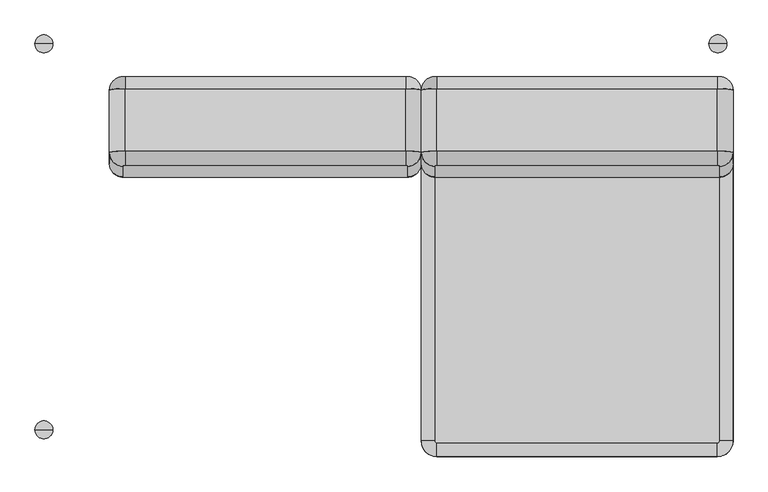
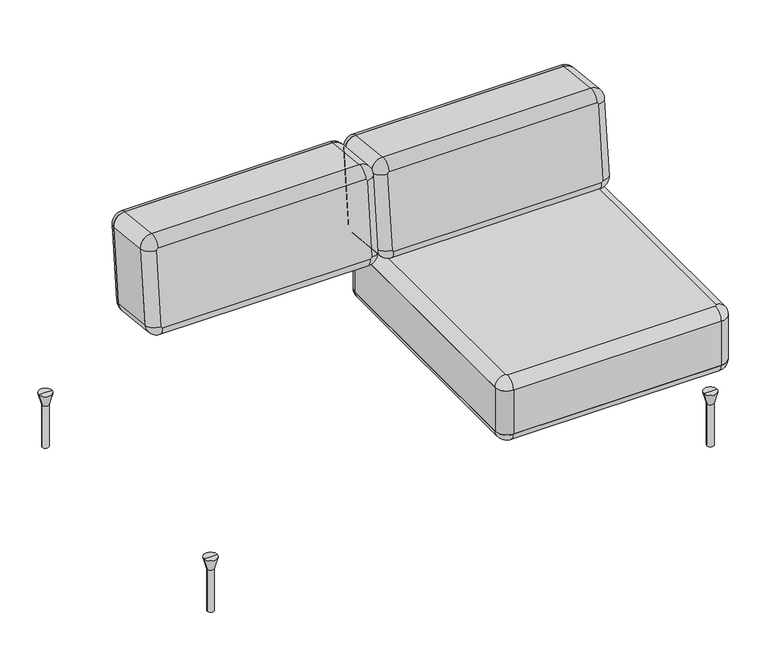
"""IFC4 building model written with IfcOpenShell, lengths in millimetres: furniture geometry, Sofa_Bensen_Neo_NEO25LIT : Sofa_Bensen_Neo_NEO25LIT."""

from ifc_helpers import new_model, si_unit, point, frame, frame_2d, origin, place, context, project, spatial, polyline, circle_curve, ellipse_curve, trimmed, segment, composite_curve, outline, extrude, source, transform, mapped, element, save
from ifc_brep_helpers import plane_surface, cylinder_surface, revolved_surface, advanced_brep


def furniture_ecc5c0b1(model_context):
    return source(origin(), model_context, "Body", "SolidModel", [
        advanced_brep(
        [(661.0275996, 430.0263245, 0.0), (670.8719303, 430.0263245, 0.0), (651.1832689, 430.0263245, 0.0), (641.0551992, 430.0263245, 170.0), (681.0, 430.0263245, 170.0), (661.0275996, 430.0263245, 170.0), (651.1832689, 430.0263245, 133.7982678), (670.8719303, 430.0263245, 133.7982678)],
        [
            (0, 1),
            (1, 2, circle_curve(frame((661.0275996, 430.0263245, 0.0), z_axis=(0.0, 0.0, -1.0), x_axis=(1.0, 0.0, 0.0)), 9.8443307)),
            (2, 0),
            (2, 1, circle_curve(frame((661.0275996, 430.0263245, 0.0), z_axis=(0.0, 0.0, -1.0), x_axis=(1.0, 0.0, 0.0)), 9.8443307)),
            (3, 4, circle_curve(frame((661.0275996, 430.0263245, 170.0), z_axis=(0.0, 0.0, 1.0), x_axis=(1.0, 0.0, 0.0)), 19.9724004)),
            (4, 5),
            (5, 3),
            (4, 3, circle_curve(frame((661.0275996, 430.0263245, 170.0), z_axis=(0.0, 0.0, 1.0), x_axis=(1.0, 0.0, 0.0)), 19.9724004)),
            (6, 7, circle_curve(frame((661.0275996, 430.0263245, 133.7982678), z_axis=(0.0, 0.0, 1.0), x_axis=(1.0, 0.0, 0.0)), 9.8443307)),
            (7, 4),
            (3, 6),
            (7, 6, circle_curve(frame((661.0275996, 430.0263245, 133.7982678), z_axis=(0.0, 0.0, 1.0), x_axis=(1.0, 0.0, 0.0)), 9.8443307)),
            (1, 7),
            (6, 2),
        ],
        [
            plane_surface(frame((661.0275996, 430.0263245, 0.0), z_axis=(0.0, 0.0, -1.0), x_axis=(1.0, 0.0, 0.0))),
            plane_surface(frame((661.0275996, 430.0263245, 170.0), z_axis=(0.0, 0.0, 1.0), x_axis=(1.0, 0.0, 0.0))),
            revolved_surface(polyline([(681.0, 430.0263245, 170.0), (670.8719303, 430.0263245, 133.7982678)]), (661.0275996, 430.0263245, 210.0), (0.0, 0.0, -1.0)),
            cylinder_surface(frame((661.0275996, 430.0263245, 210.0), z_axis=(0.0, 0.0, -1.0), x_axis=(1.0, 0.0, 0.0)), 9.8443307),
        ],
        [
            (0, [[1, 2, 3]]),
            (0, [[-3, 4, -1]]),
            (1, [[5, 6, 7]]),
            (1, [[8, -7, -6]]),
            (2, [[9, 10, -5, 11]]),
            (2, [[12, -11, -8, -10]]),
            (3, [[-2, 13, -9, 14]]),
            (3, [[-4, -14, -12, -13]]),
        ],
    ),
        advanced_brep(
        [(661.0275996, -430.0263245, 0.0), (651.1832689, -430.0263245, 0.0), (670.8719303, -430.0263245, 0.0), (641.0551992, -430.0263245, 170.0), (661.0275996, -430.0263245, 170.0), (681.0, -430.0263245, 170.0), (651.1832689, -430.0263245, 133.7982678), (670.8719303, -430.0263245, 133.7982678)],
        [
            (0, 1),
            (1, 2, circle_curve(frame((661.0275996, -430.0263245, 0.0), z_axis=(0.0, 0.0, -1.0), x_axis=(1.0, 0.0, 0.0)), 9.8443307)),
            (2, 0),
            (2, 1, circle_curve(frame((661.0275996, -430.0263245, 0.0), z_axis=(0.0, 0.0, -1.0), x_axis=(1.0, 0.0, 0.0)), 9.8443307)),
            (3, 4),
            (4, 5),
            (5, 3, circle_curve(frame((661.0275996, -430.0263245, 170.0), z_axis=(0.0, 0.0, 1.0), x_axis=(1.0, 0.0, 0.0)), 19.9724004)),
            (3, 5, circle_curve(frame((661.0275996, -430.0263245, 170.0), z_axis=(0.0, 0.0, 1.0), x_axis=(1.0, 0.0, 0.0)), 19.9724004)),
            (6, 3),
            (5, 7),
            (7, 6, circle_curve(frame((661.0275996, -430.0263245, 133.7982678), z_axis=(0.0, 0.0, 1.0), x_axis=(1.0, 0.0, 0.0)), 9.8443307)),
            (6, 7, circle_curve(frame((661.0275996, -430.0263245, 133.7982678), z_axis=(0.0, 0.0, 1.0), x_axis=(1.0, 0.0, 0.0)), 9.8443307)),
            (1, 6),
            (7, 2),
        ],
        [
            plane_surface(frame((661.0275996, -430.0263245, 0.0), z_axis=(0.0, 0.0, -1.0), x_axis=(1.0, 0.0, 0.0))),
            plane_surface(frame((661.0275996, -430.0263245, 170.0), z_axis=(0.0, 0.0, 1.0), x_axis=(1.0, 0.0, 0.0))),
            revolved_surface(polyline([(681.0, -430.0263245, 170.0), (670.8719303, -430.0263245, 133.7982678)]), (661.0275996, -430.0263245, 210.0), (0.0, 0.0, -1.0)),
            cylinder_surface(frame((661.0275996, -430.0263245, 210.0), z_axis=(0.0, 0.0, -1.0), x_axis=(1.0, 0.0, 0.0)), 9.8443307),
        ],
        [
            (0, [[1, 2, 3]]),
            (0, [[-3, 4, -1]]),
            (1, [[5, 6, 7]]),
            (1, [[-6, -5, 8]]),
            (2, [[9, -7, 10, 11]]),
            (2, [[-10, -8, -9, 12]]),
            (3, [[13, -11, 14, -2]]),
            (3, [[-14, -12, -13, -4]]),
        ],
    ),
        advanced_brep(
        [(-841.0275996, 430.0263245, 0.0), (-831.1832689, 430.0263245, 0.0), (-850.8719302, 430.0263245, 0.0), (-821.0551992, 430.0263245, 170.0), (-841.0275996, 430.0263245, 170.0), (-860.9999999, 430.0263245, 170.0), (-831.1832689, 430.0263245, 133.7982678), (-850.8719302, 430.0263245, 133.7982678)],
        [
            (0, 1),
            (1, 2, circle_curve(frame((-841.0275996, 430.0263245, 0.0), z_axis=(0.0, 0.0, -1.0), x_axis=(-1.0, 0.0, 0.0)), 9.8443307)),
            (2, 0),
            (2, 1, circle_curve(frame((-841.0275996, 430.0263245, 0.0), z_axis=(0.0, 0.0, -1.0), x_axis=(-1.0, 0.0, 0.0)), 9.8443307)),
            (3, 4),
            (4, 5),
            (5, 3, circle_curve(frame((-841.0275996, 430.0263245, 170.0), z_axis=(0.0, 0.0, 1.0), x_axis=(-1.0, 0.0, 0.0)), 19.9724004)),
            (3, 5, circle_curve(frame((-841.0275996, 430.0263245, 170.0), z_axis=(0.0, 0.0, 1.0), x_axis=(-1.0, 0.0, 0.0)), 19.9724004)),
            (6, 3),
            (5, 7),
            (7, 6, circle_curve(frame((-841.0275996, 430.0263245, 133.7982678), z_axis=(0.0, 0.0, 1.0), x_axis=(-1.0, 0.0, 0.0)), 9.8443307)),
            (6, 7, circle_curve(frame((-841.0275996, 430.0263245, 133.7982678), z_axis=(0.0, 0.0, 1.0), x_axis=(-1.0, 0.0, 0.0)), 9.8443307)),
            (1, 6),
            (7, 2),
        ],
        [
            plane_surface(frame((-841.0275996, 430.0263245, 0.0), z_axis=(0.0, 0.0, -1.0), x_axis=(-1.0, 0.0, 0.0))),
            plane_surface(frame((-841.0275996, 430.0263245, 170.0), z_axis=(0.0, 0.0, 1.0), x_axis=(-1.0, 0.0, 0.0))),
            revolved_surface(polyline([(-860.9999999, 430.0263245, 170.0), (-850.8719302, 430.0263245, 133.7982678)]), (-841.0275996, 430.0263245, 210.0), (0.0, 0.0, -1.0)),
            cylinder_surface(frame((-841.0275996, 430.0263245, 210.0), z_axis=(0.0, 0.0, -1.0), x_axis=(-1.0, 0.0, 0.0)), 9.8443307),
        ],
        [
            (0, [[1, 2, 3]]),
            (0, [[-3, 4, -1]]),
            (1, [[5, 6, 7]]),
            (1, [[-6, -5, 8]]),
            (2, [[9, -7, 10, 11]]),
            (2, [[-10, -8, -9, 12]]),
            (3, [[13, -11, 14, -2]]),
            (3, [[-14, -12, -13, -4]]),
        ],
    ),
        advanced_brep(
        [(-841.0275996, -430.0263245, 0.0), (-850.8719302, -430.0263245, 0.0), (-831.1832689, -430.0263245, 0.0), (-821.0551992, -430.0263245, 170.0), (-860.9999999, -430.0263245, 170.0), (-841.0275996, -430.0263245, 170.0), (-831.1832689, -430.0263245, 133.7982678), (-850.8719302, -430.0263245, 133.7982678)],
        [
            (0, 1),
            (1, 2, circle_curve(frame((-841.0275996, -430.0263245, 0.0), z_axis=(0.0, 0.0, -1.0), x_axis=(-1.0, 0.0, 0.0)), 9.8443307)),
            (2, 0),
            (2, 1, circle_curve(frame((-841.0275996, -430.0263245, 0.0), z_axis=(0.0, 0.0, -1.0), x_axis=(-1.0, 0.0, 0.0)), 9.8443307)),
            (3, 4, circle_curve(frame((-841.0275996, -430.0263245, 170.0), z_axis=(0.0, 0.0, 1.0), x_axis=(-1.0, 0.0, 0.0)), 19.9724004)),
            (4, 5),
            (5, 3),
            (4, 3, circle_curve(frame((-841.0275996, -430.0263245, 170.0), z_axis=(0.0, 0.0, 1.0), x_axis=(-1.0, 0.0, 0.0)), 19.9724004)),
            (6, 7, circle_curve(frame((-841.0275996, -430.0263245, 133.7982678), z_axis=(0.0, 0.0, 1.0), x_axis=(-1.0, 0.0, 0.0)), 9.8443307)),
            (7, 4),
            (3, 6),
            (7, 6, circle_curve(frame((-841.0275996, -430.0263245, 133.7982678), z_axis=(0.0, 0.0, 1.0), x_axis=(-1.0, 0.0, 0.0)), 9.8443307)),
            (1, 7),
            (6, 2),
        ],
        [
            plane_surface(frame((-841.0275996, -430.0263245, 0.0), z_axis=(0.0, 0.0, -1.0), x_axis=(-1.0, 0.0, 0.0))),
            plane_surface(frame((-841.0275996, -430.0263245, 170.0), z_axis=(0.0, 0.0, 1.0), x_axis=(-1.0, 0.0, 0.0))),
            revolved_surface(polyline([(-860.9999999, -430.0263245, 170.0), (-850.8719302, -430.0263245, 133.7982678)]), (-841.0275996, -430.0263245, 210.0), (0.0, 0.0, -1.0)),
            cylinder_surface(frame((-841.0275996, -430.0263245, 210.0), z_axis=(0.0, 0.0, -1.0), x_axis=(-1.0, 0.0, 0.0)), 9.8443307),
        ],
        [
            (0, [[1, 2, 3]]),
            (0, [[-3, 4, -1]]),
            (1, [[5, 6, 7]]),
            (1, [[8, -7, -6]]),
            (2, [[9, 10, -5, 11]]),
            (2, [[12, -11, -8, -10]]),
            (3, [[-2, 13, -9, 14]]),
            (3, [[-4, -14, -12, -13]]),
        ],
    ),
        advanced_brep(
        [(35.0, 330.2036921, 743.2087665), (0.0, 326.5451959, 708.4005002), (0.0, 302.5036494, 479.6604642), (35.0, 298.8451531, 444.8521979), (660.0, 298.8451531, 444.8521979), (695.0, 302.5036494, 479.6604642), (695.0, 326.5451959, 708.4005002), (660.0, 330.2036921, 743.2087665), (30.0, 356.3808528, 705.2646463), (35.0, 356.9034951, 710.2372557), (660.0, 356.9034951, 710.2372557), (665.0, 356.3808528, 705.2646463), (665.0, 332.3393062, 476.5246103), (660.0, 331.8166639, 471.5520008), (35.0, 331.8166639, 471.5520008), (30.0, 332.3393062, 476.5246103)],
        [
            (0, 1, circle_curve(frame((35.0, 326.5451959, 708.4005002), z_axis=(0.0, -0.9945218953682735, 0.10452846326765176), x_axis=(-1.0, 0.0, 0.0)), 35.0)),
            (1, 2),
            (2, 3, circle_curve(frame((35.0, 302.5036494, 479.6604642), z_axis=(0.0, -0.9945218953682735, 0.10452846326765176), x_axis=(0.0, -0.10452846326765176, -0.9945218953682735)), 35.0)),
            (3, 4),
            (4, 5, circle_curve(frame((660.0, 302.5036494, 479.6604642), z_axis=(0.0, -0.9945218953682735, 0.10452846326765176), x_axis=(1.0, 0.0, 0.0)), 35.0)),
            (5, 6),
            (6, 7, circle_curve(frame((660.0, 326.5451959, 708.4005002), z_axis=(0.0, -0.9945218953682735, 0.10452846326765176), x_axis=(0.0, 0.10452846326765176, 0.9945218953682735)), 35.0)),
            (7, 0),
            (8, 9, circle_curve(frame((35.0, 356.3808528, 705.2646463), z_axis=(0.0, 0.9945218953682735, -0.10452846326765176), x_axis=(-1.0, 0.0, 0.0)), 5.0)),
            (9, 10),
            (10, 11, circle_curve(frame((660.0, 356.3808528, 705.2646463), z_axis=(0.0, 0.9945218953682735, -0.10452846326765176), x_axis=(0.0, 0.10452846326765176, 0.9945218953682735)), 5.0)),
            (11, 12),
            (12, 13, circle_curve(frame((660.0, 332.3393062, 476.5246103), z_axis=(0.0, 0.9945218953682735, -0.10452846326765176), x_axis=(1.0, 0.0, 0.0)), 5.0)),
            (13, 14),
            (14, 15, circle_curve(frame((35.0, 332.3393062, 476.5246103), z_axis=(0.0, 0.9945218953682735, -0.10452846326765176), x_axis=(0.0, -0.10452846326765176, -0.9945218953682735)), 5.0)),
            (15, 8),
            (8, 1, circle_curve(frame((30.0, 326.5451959, 708.4005002), z_axis=(0.0, 0.10452846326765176, 0.9945218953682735), x_axis=(-1.0, 0.0, 0.0)), 30.0)),
            (0, 9, circle_curve(frame((35.0, 327.0678382, 713.3731096), z_axis=(-1.0, 0.0, 0.0), x_axis=(0.0, 0.10452846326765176, 0.9945218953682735)), 30.0)),
            (7, 10, circle_curve(frame((660.0, 327.0678382, 713.3731096), z_axis=(-1.0, 0.0, 0.0), x_axis=(0.0, 0.10452846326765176, 0.9945218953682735)), 30.0)),
            (6, 11, circle_curve(frame((665.0, 326.5451959, 708.4005002), z_axis=(0.0, 0.10452846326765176, 0.9945218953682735), x_axis=(1.0, 0.0, 0.0)), 30.0)),
            (5, 12, circle_curve(frame((665.0, 302.5036494, 479.6604642), z_axis=(0.0, 0.10452846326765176, 0.9945218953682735), x_axis=(1.0, 0.0, 0.0)), 30.0)),
            (4, 13, circle_curve(frame((660.0, 301.981007, 474.6878547), z_axis=(1.0, 0.0, 0.0), x_axis=(0.0, -0.10452846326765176, -0.9945218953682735)), 30.0)),
            (3, 14, circle_curve(frame((35.0, 301.981007, 474.6878547), z_axis=(1.0, 0.0, 0.0), x_axis=(0.0, -0.10452846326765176, -0.9945218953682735)), 30.0)),
            (2, 15, circle_curve(frame((30.0, 302.5036494, 479.6604642), z_axis=(0.0, -0.10452846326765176, -0.9945218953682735), x_axis=(-1.0, 0.0, 0.0)), 30.0)),
        ],
        [
            plane_surface(frame((35.0, 303.0262917, 484.6330737), z_axis=(0.0, -0.9945218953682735, 0.10452846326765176), x_axis=(-1.0, 0.0, 0.0))),
            plane_surface(frame((35.0, 332.8619485, 481.4972198), z_axis=(0.0, 0.9945218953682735, -0.10452846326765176), x_axis=(1.0, 0.0, 0.0))),
            revolved_surface(trimmed(ellipse_curve(frame((30.0, 326.5451959, 708.4005002), z_axis=(0.0, -0.10452846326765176, -0.9945218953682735), x_axis=(-1.0, 0.0, 0.0)), 30.0, 30.0), [point((0.0, 326.5451959, 708.4005002))], [point((30.0, 356.3808528, 705.2646463))], True, "CARTESIAN"), (35.0, 326.5451959, 708.4005002), (0.0, 0.9945218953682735, -0.10452846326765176)),
            cylinder_surface(frame((35.0, 327.0678382, 713.3731096), z_axis=(-1.0, 0.0, 0.0), x_axis=(0.0, 0.10452846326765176, 0.9945218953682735)), 30.0),
            revolved_surface(trimmed(ellipse_curve(frame((660.0, 327.0678382, 713.3731096), z_axis=(-1.0, 0.0, 0.0), x_axis=(0.0, 0.10452846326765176, 0.9945218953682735)), 30.0, 30.0), [point((660.0, 330.2036921, 743.2087665))], [point((660.0, 356.9034951, 710.2372557))], True, "CARTESIAN"), (660.0, 326.5451959, 708.4005002), (0.0, 0.9945218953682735, -0.10452846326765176)),
            cylinder_surface(frame((665.0, 326.5451959, 708.4005002), z_axis=(0.0, 0.10452846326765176, 0.9945218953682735), x_axis=(1.0, 0.0, 0.0)), 30.0),
            revolved_surface(trimmed(ellipse_curve(frame((665.0, 302.5036494, 479.6604642), z_axis=(0.0, 0.10452846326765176, 0.9945218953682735), x_axis=(1.0, 0.0, 0.0)), 30.0, 30.0), [point((695.0, 302.5036494, 479.6604642))], [point((665.0, 332.3393062, 476.5246103))], True, "CARTESIAN"), (660.0, 302.5036494, 479.6604642), (0.0, 0.9945218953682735, -0.10452846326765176)),
            cylinder_surface(frame((660.0, 301.981007, 474.6878547), z_axis=(1.0, 0.0, 0.0), x_axis=(0.0, -0.10452846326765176, -0.9945218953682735)), 30.0),
            revolved_surface(trimmed(ellipse_curve(frame((35.0, 301.981007, 474.6878547), z_axis=(1.0, 0.0, 0.0), x_axis=(0.0, -0.10452846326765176, -0.9945218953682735)), 30.0, 30.0), [point((35.0, 298.8451531, 444.8521979))], [point((35.0, 331.8166639, 471.5520008))], True, "CARTESIAN"), (35.0, 302.5036494, 479.6604642), (0.0, 0.9945218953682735, -0.10452846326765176)),
            cylinder_surface(frame((30.0, 302.5036494, 479.6604642), z_axis=(0.0, -0.10452846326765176, -0.9945218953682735), x_axis=(-1.0, 0.0, 0.0)), 30.0),
        ],
        [
            (0, [[1, 2, 3, 4, 5, 6, 7, 8]]),
            (1, [[9, 10, 11, 12, 13, 14, 15, 16]]),
            (2, [[17, -1, 18, -9]]),
            (3, [[-18, -8, 19, -10]]),
            (4, [[-19, -7, 20, -11]]),
            (5, [[-20, -6, 21, -12]]),
            (6, [[-21, -5, 22, -13]]),
            (7, [[-22, -4, 23, -14]]),
            (8, [[-23, -3, 24, -15]]),
            (9, [[-17, -16, -24, -2]]),
        ],
    ),
        advanced_brep(
        [(35.0, 190.9706268, 757.8427514), (0.0, 187.3121306, 723.034485), (30.0, 157.4764737, 726.1703389), (35.0, 157.999116, 731.1429484), (660.0, 157.999116, 731.1429484), (660.0, 190.9706268, 757.8427514), (665.0, 157.4764737, 726.1703389), (695.0, 187.3121306, 723.034485), (665.0, 133.4349271, 497.430303), (695.0, 163.270584, 494.2944491), (660.0, 132.9122848, 492.4576935), (660.0, 159.6120878, 459.4861827), (35.0, 132.9122848, 492.4576935), (35.0, 159.6120878, 459.4861827), (30.0, 133.4349271, 497.430303), (0.0, 163.270584, 494.2944491)],
        [
            (0, 1, circle_curve(frame((35.0, 187.3121306, 723.034485), z_axis=(0.0, -0.9945218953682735, 0.10452846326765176), x_axis=(-1.0, 0.0, 0.0)), 35.0)),
            (1, 2, circle_curve(frame((30.0, 187.3121306, 723.034485), z_axis=(0.0, 0.10452846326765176, 0.9945218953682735), x_axis=(-1.0, 0.0, 0.0)), 30.0)),
            (2, 3, circle_curve(frame((35.0, 157.4764737, 726.1703389), z_axis=(0.0, 0.9945218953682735, -0.10452846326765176), x_axis=(-1.0, 0.0, 0.0)), 5.0)),
            (3, 0, circle_curve(frame((35.0, 187.8347729, 728.0070945), z_axis=(-1.0, 0.0, 0.0), x_axis=(0.0, 0.10452846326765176, 0.9945218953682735)), 30.0)),
            (3, 4),
            (4, 5, circle_curve(frame((660.0, 187.8347729, 728.0070945), z_axis=(-1.0, 0.0, 0.0), x_axis=(0.0, 0.10452846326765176, 0.9945218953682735)), 30.0)),
            (5, 0),
            (4, 6, circle_curve(frame((660.0, 157.4764737, 726.1703389), z_axis=(0.0, 0.9945218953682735, -0.10452846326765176), x_axis=(0.0, 0.10452846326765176, 0.9945218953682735)), 5.0)),
            (6, 7, circle_curve(frame((665.0, 187.3121306, 723.034485), z_axis=(0.0, 0.10452846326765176, 0.9945218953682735), x_axis=(1.0, 0.0, 0.0)), 30.0)),
            (7, 5, circle_curve(frame((660.0, 187.3121306, 723.034485), z_axis=(0.0, -0.9945218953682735, 0.10452846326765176), x_axis=(0.0, 0.10452846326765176, 0.9945218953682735)), 35.0)),
            (6, 8),
            (8, 9, circle_curve(frame((665.0, 163.270584, 494.2944491), z_axis=(0.0, 0.10452846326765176, 0.9945218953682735), x_axis=(1.0, 0.0, 0.0)), 30.0)),
            (9, 7),
            (8, 10, circle_curve(frame((660.0, 133.4349271, 497.430303), z_axis=(0.0, 0.9945218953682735, -0.10452846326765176), x_axis=(1.0, 0.0, 0.0)), 5.0)),
            (10, 11, circle_curve(frame((660.0, 162.7479417, 489.3218396), z_axis=(1.0, 0.0, 0.0), x_axis=(0.0, -0.10452846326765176, -0.9945218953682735)), 30.0)),
            (11, 9, circle_curve(frame((660.0, 163.270584, 494.2944491), z_axis=(0.0, -0.9945218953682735, 0.10452846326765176), x_axis=(1.0, 0.0, 0.0)), 35.0)),
            (10, 12),
            (12, 13, circle_curve(frame((35.0, 162.7479417, 489.3218396), z_axis=(1.0, 0.0, 0.0), x_axis=(0.0, -0.10452846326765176, -0.9945218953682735)), 30.0)),
            (13, 11),
            (12, 14, circle_curve(frame((35.0, 133.4349271, 497.430303), z_axis=(0.0, 0.9945218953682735, -0.10452846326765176), x_axis=(0.0, -0.10452846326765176, -0.9945218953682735)), 5.0)),
            (14, 15, circle_curve(frame((30.0, 163.270584, 494.2944491), z_axis=(0.0, -0.10452846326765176, -0.9945218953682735), x_axis=(-1.0, 0.0, 0.0)), 30.0)),
            (15, 13, circle_curve(frame((35.0, 163.270584, 494.2944491), z_axis=(0.0, -0.9945218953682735, 0.10452846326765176), x_axis=(0.0, -0.10452846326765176, -0.9945218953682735)), 35.0)),
            (1, 15),
            (14, 2),
        ],
        [
            revolved_surface(trimmed(ellipse_curve(frame((30.0, 187.3121306, 723.034485), z_axis=(0.0, -0.10452846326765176, -0.9945218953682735), x_axis=(-1.0, 0.0, 0.0)), 30.0, 30.0), [point((30.0, 157.4764737, 726.1703389))], [point((0.0, 187.3121306, 723.034485))], True, "CARTESIAN"), (35.0, 356.3808528, 705.2646463), (0.0, 0.9945218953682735, -0.10452846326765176)),
            cylinder_surface(frame((35.0, 187.8347729, 728.0070945), z_axis=(-1.0, 0.0, 0.0), x_axis=(0.0, 0.10452846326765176, 0.9945218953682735)), 30.0),
            revolved_surface(trimmed(ellipse_curve(frame((660.0, 187.8347729, 728.0070945), z_axis=(-1.0, 0.0, 0.0), x_axis=(0.0, 0.10452846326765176, 0.9945218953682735)), 30.0, 30.0), [point((660.0, 157.999116, 731.1429484))], [point((660.0, 190.9706268, 757.8427514))], True, "CARTESIAN"), (660.0, 356.3808528, 705.2646463), (0.0, 0.9945218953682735, -0.10452846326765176)),
            cylinder_surface(frame((665.0, 187.3121306, 723.034485), z_axis=(0.0, 0.10452846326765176, 0.9945218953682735), x_axis=(1.0, 0.0, 0.0)), 30.0),
            revolved_surface(trimmed(ellipse_curve(frame((665.0, 163.270584, 494.2944491), z_axis=(0.0, 0.10452846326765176, 0.9945218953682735), x_axis=(1.0, 0.0, 0.0)), 30.0, 30.0), [point((665.0, 133.4349271, 497.430303))], [point((695.0, 163.270584, 494.2944491))], True, "CARTESIAN"), (660.0, 332.3393062, 476.5246103), (0.0, 0.9945218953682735, -0.10452846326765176)),
            cylinder_surface(frame((660.0, 162.7479417, 489.3218396), z_axis=(1.0, 0.0, 0.0), x_axis=(0.0, -0.10452846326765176, -0.9945218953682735)), 30.0),
            revolved_surface(trimmed(ellipse_curve(frame((35.0, 162.7479417, 489.3218396), z_axis=(1.0, 0.0, 0.0), x_axis=(0.0, -0.10452846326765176, -0.9945218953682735)), 30.0, 30.0), [point((35.0, 132.9122848, 492.4576935))], [point((35.0, 159.6120878, 459.4861827))], True, "CARTESIAN"), (35.0, 332.3393062, 476.5246103), (0.0, 0.9945218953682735, -0.10452846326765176)),
            cylinder_surface(frame((30.0, 163.270584, 494.2944491), z_axis=(0.0, -0.10452846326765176, -0.9945218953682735), x_axis=(-1.0, 0.0, 0.0)), 30.0),
            plane_surface(frame((0.0, 163.270584, 494.2944491), z_axis=(0.0, 0.9945218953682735, -0.10452846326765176), x_axis=(0.0, 0.10452846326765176, 0.9945218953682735))),
            plane_surface(frame((35.0, 133.9575695, 502.4029125), z_axis=(0.0, -0.9945218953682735, 0.10452846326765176), x_axis=(-1.0, 0.0, 0.0))),
        ],
        [
            (0, [[1, 2, 3, 4]]),
            (1, [[-4, 5, 6, 7]]),
            (2, [[-6, 8, 9, 10]]),
            (3, [[-9, 11, 12, 13]]),
            (4, [[-12, 14, 15, 16]]),
            (5, [[-15, 17, 18, 19]]),
            (6, [[-18, 20, 21, 22]]),
            (7, [[-2, 23, -21, 24]]),
            (8, [[-1, -7, -10, -13, -16, -19, -22, -23]]),
            (9, [[-3, -24, -20, -17, -14, -11, -8, -5]]),
        ],
    ),
        extrude(outline(composite_curve([segment(polyline([(-35.0, -35.0000001), (-35.0, 195.0)]), True, "CONTINUOUS"), segment(trimmed(circle_curve(frame_2d((0.0, 195.0)), 35.0), [point((-35.0, 195.0))], [point((0.0, 230.0))], False, "CARTESIAN"), True, "CONTINUOUS"), segment(polyline([(0.0, 230.0), (625.0, 230.0)]), True, "CONTINUOUS"), segment(trimmed(circle_curve(frame_2d((625.0, 195.0)), 35.0), [point((625.0, 230.0))], [point((660.0, 195.0))], False, "CARTESIAN"), True, "CONTINUOUS"), segment(polyline([(660.0, 195.0), (660.0, -35.0000001)]), True, "CONTINUOUS"), segment(trimmed(circle_curve(frame_2d((625.0, -35.0000001)), 35.0), [point((660.0, -35.0000001))], [point((625.0, -70.0))], False, "CARTESIAN"), True, "CONTINUOUS"), segment(polyline([(625.0, -70.0), (0.0, -70.0)]), True, "CONTINUOUS"), segment(trimmed(circle_curve(frame_2d((0.0, -35.0000001)), 35.0), [point((0.0, -70.0))], [point((-35.0, -35.0000001))], False, "CARTESIAN"), True, "CONTINUOUS")], self_intersect=False)), frame((35.0, 306.1621456, 514.4687306), z_axis=(0.0, -0.9945218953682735, 0.10452846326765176), x_axis=(1.0, 0.0, 0.0)), (0.0, 0.0, 1.0), 140.0),
        advanced_brep(
        [(-660.0, 330.2036921, 743.2087665), (-695.0, 326.5451959, 708.4005002), (-695.0, 302.5036494, 479.6604642), (-660.0, 298.8451531, 444.8521979), (-35.0, 298.8451531, 444.8521979), (0.0, 302.5036494, 479.6604642), (0.0, 326.5451959, 708.4005002), (-35.0, 330.2036921, 743.2087665), (-665.0, 356.3808528, 705.2646463), (-660.0, 356.9034951, 710.2372557), (-35.0, 356.9034951, 710.2372557), (-30.0, 356.3808528, 705.2646463), (-30.0, 332.3393062, 476.5246103), (-35.0, 331.8166639, 471.5520008), (-660.0, 331.8166639, 471.5520008), (-665.0, 332.3393062, 476.5246103)],
        [
            (0, 1, circle_curve(frame((-660.0, 326.5451959, 708.4005002), z_axis=(0.0, -0.9945218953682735, 0.10452846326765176), x_axis=(-1.0, 0.0, 0.0)), 35.0)),
            (1, 2),
            (2, 3, circle_curve(frame((-660.0, 302.5036494, 479.6604642), z_axis=(0.0, -0.9945218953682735, 0.10452846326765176), x_axis=(0.0, -0.10452846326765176, -0.9945218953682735)), 35.0)),
            (3, 4),
            (4, 5, circle_curve(frame((-35.0, 302.5036494, 479.6604642), z_axis=(0.0, -0.9945218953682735, 0.10452846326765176), x_axis=(1.0, 0.0, 0.0)), 35.0)),
            (5, 6),
            (6, 7, circle_curve(frame((-35.0, 326.5451959, 708.4005002), z_axis=(0.0, -0.9945218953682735, 0.10452846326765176), x_axis=(0.0, 0.10452846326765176, 0.9945218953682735)), 35.0)),
            (7, 0),
            (8, 9, circle_curve(frame((-660.0, 356.3808528, 705.2646463), z_axis=(0.0, 0.9945218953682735, -0.10452846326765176), x_axis=(-1.0, 0.0, 0.0)), 5.0)),
            (9, 10),
            (10, 11, circle_curve(frame((-35.0, 356.3808528, 705.2646463), z_axis=(0.0, 0.9945218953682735, -0.10452846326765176), x_axis=(0.0, 0.10452846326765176, 0.9945218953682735)), 5.0)),
            (11, 12),
            (12, 13, circle_curve(frame((-35.0, 332.3393062, 476.5246103), z_axis=(0.0, 0.9945218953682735, -0.10452846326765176), x_axis=(1.0, 0.0, 0.0)), 5.0)),
            (13, 14),
            (14, 15, circle_curve(frame((-660.0, 332.3393062, 476.5246103), z_axis=(0.0, 0.9945218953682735, -0.10452846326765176), x_axis=(0.0, -0.10452846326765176, -0.9945218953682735)), 5.0)),
            (15, 8),
            (8, 1, circle_curve(frame((-665.0, 326.5451959, 708.4005002), z_axis=(0.0, 0.10452846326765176, 0.9945218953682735), x_axis=(-1.0, 0.0, 0.0)), 30.0)),
            (0, 9, circle_curve(frame((-660.0, 327.0678382, 713.3731096), z_axis=(-1.0, 0.0, 0.0), x_axis=(0.0, 0.10452846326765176, 0.9945218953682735)), 30.0)),
            (7, 10, circle_curve(frame((-35.0, 327.0678382, 713.3731096), z_axis=(-1.0, 0.0, 0.0), x_axis=(0.0, 0.10452846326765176, 0.9945218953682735)), 30.0)),
            (6, 11, circle_curve(frame((-30.0, 326.5451959, 708.4005002), z_axis=(0.0, 0.10452846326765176, 0.9945218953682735), x_axis=(1.0, 0.0, 0.0)), 30.0)),
            (5, 12, circle_curve(frame((-30.0, 302.5036494, 479.6604642), z_axis=(0.0, 0.10452846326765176, 0.9945218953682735), x_axis=(1.0, 0.0, 0.0)), 30.0)),
            (4, 13, circle_curve(frame((-35.0, 301.981007, 474.6878547), z_axis=(1.0, 0.0, 0.0), x_axis=(0.0, -0.10452846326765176, -0.9945218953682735)), 30.0)),
            (3, 14, circle_curve(frame((-660.0, 301.981007, 474.6878547), z_axis=(1.0, 0.0, 0.0), x_axis=(0.0, -0.10452846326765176, -0.9945218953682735)), 30.0)),
            (2, 15, circle_curve(frame((-665.0, 302.5036494, 479.6604642), z_axis=(0.0, -0.10452846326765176, -0.9945218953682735), x_axis=(-1.0, 0.0, 0.0)), 30.0)),
        ],
        [
            plane_surface(frame((-660.0, 303.0262917, 484.6330737), z_axis=(0.0, -0.9945218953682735, 0.10452846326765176), x_axis=(-1.0, 0.0, 0.0))),
            plane_surface(frame((-660.0, 332.8619485, 481.4972198), z_axis=(0.0, 0.9945218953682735, -0.10452846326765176), x_axis=(1.0, 0.0, 0.0))),
            revolved_surface(trimmed(ellipse_curve(frame((-665.0, 326.5451959, 708.4005002), z_axis=(0.0, -0.10452846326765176, -0.9945218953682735), x_axis=(-1.0, 0.0, 0.0)), 30.0, 30.0), [point((-695.0, 326.5451959, 708.4005002))], [point((-665.0, 356.3808528, 705.2646463))], True, "CARTESIAN"), (-660.0, 326.5451959, 708.4005002), (0.0, 0.9945218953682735, -0.10452846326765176)),
            cylinder_surface(frame((-660.0, 327.0678382, 713.3731096), z_axis=(-1.0, 0.0, 0.0), x_axis=(0.0, 0.10452846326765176, 0.9945218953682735)), 30.0),
            revolved_surface(trimmed(ellipse_curve(frame((-35.0, 327.0678382, 713.3731096), z_axis=(-1.0, 0.0, 0.0), x_axis=(0.0, 0.10452846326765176, 0.9945218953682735)), 30.0, 30.0), [point((-35.0, 330.2036921, 743.2087665))], [point((-35.0, 356.9034951, 710.2372557))], True, "CARTESIAN"), (-35.0, 326.5451959, 708.4005002), (0.0, 0.9945218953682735, -0.10452846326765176)),
            cylinder_surface(frame((-30.0, 326.5451959, 708.4005002), z_axis=(0.0, 0.10452846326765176, 0.9945218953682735), x_axis=(1.0, 0.0, 0.0)), 30.0),
            revolved_surface(trimmed(ellipse_curve(frame((-30.0, 302.5036494, 479.6604642), z_axis=(0.0, 0.10452846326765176, 0.9945218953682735), x_axis=(1.0, 0.0, 0.0)), 30.0, 30.0), [point((0.0, 302.5036494, 479.6604642))], [point((-30.0, 332.3393062, 476.5246103))], True, "CARTESIAN"), (-35.0, 302.5036494, 479.6604642), (0.0, 0.9945218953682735, -0.10452846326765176)),
            cylinder_surface(frame((-35.0, 301.981007, 474.6878547), z_axis=(1.0, 0.0, 0.0), x_axis=(0.0, -0.10452846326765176, -0.9945218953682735)), 30.0),
            revolved_surface(trimmed(ellipse_curve(frame((-660.0, 301.981007, 474.6878547), z_axis=(1.0, 0.0, 0.0), x_axis=(0.0, -0.10452846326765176, -0.9945218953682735)), 30.0, 30.0), [point((-660.0, 298.8451531, 444.8521979))], [point((-660.0, 331.8166639, 471.5520008))], True, "CARTESIAN"), (-660.0, 302.5036494, 479.6604642), (0.0, 0.9945218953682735, -0.10452846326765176)),
            cylinder_surface(frame((-665.0, 302.5036494, 479.6604642), z_axis=(0.0, -0.10452846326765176, -0.9945218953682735), x_axis=(-1.0, 0.0, 0.0)), 30.0),
        ],
        [
            (0, [[1, 2, 3, 4, 5, 6, 7, 8]]),
            (1, [[9, 10, 11, 12, 13, 14, 15, 16]]),
            (2, [[17, -1, 18, -9]]),
            (3, [[-18, -8, 19, -10]]),
            (4, [[-19, -7, 20, -11]]),
            (5, [[-20, -6, 21, -12]]),
            (6, [[-21, -5, 22, -13]]),
            (7, [[-22, -4, 23, -14]]),
            (8, [[-23, -3, 24, -15]]),
            (9, [[-17, -16, -24, -2]]),
        ],
    ),
        advanced_brep(
        [(-660.0, 190.9706268, 757.8427514), (-695.0, 187.3121306, 723.034485), (-665.0, 157.4764737, 726.1703389), (-660.0, 157.999116, 731.1429484), (-35.0, 157.999116, 731.1429484), (-35.0, 190.9706268, 757.8427514), (-30.0, 157.4764737, 726.1703389), (0.0, 187.3121306, 723.034485), (-30.0, 133.4349271, 497.430303), (0.0, 163.270584, 494.2944491), (-35.0, 132.9122848, 492.4576935), (-35.0, 159.6120878, 459.4861827), (-660.0, 132.9122848, 492.4576935), (-660.0, 159.6120878, 459.4861827), (-665.0, 133.4349271, 497.430303), (-695.0, 163.270584, 494.2944491)],
        [
            (0, 1, circle_curve(frame((-660.0, 187.3121306, 723.034485), z_axis=(0.0, -0.9945218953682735, 0.10452846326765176), x_axis=(-1.0, 0.0, 0.0)), 35.0)),
            (1, 2, circle_curve(frame((-665.0, 187.3121306, 723.034485), z_axis=(0.0, 0.10452846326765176, 0.9945218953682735), x_axis=(-1.0, 0.0, 0.0)), 30.0)),
            (2, 3, circle_curve(frame((-660.0, 157.4764737, 726.1703389), z_axis=(0.0, 0.9945218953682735, -0.10452846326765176), x_axis=(-1.0, 0.0, 0.0)), 5.0)),
            (3, 0, circle_curve(frame((-660.0, 187.8347729, 728.0070945), z_axis=(-1.0, 0.0, 0.0), x_axis=(0.0, 0.10452846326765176, 0.9945218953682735)), 30.0)),
            (3, 4),
            (4, 5, circle_curve(frame((-35.0, 187.8347729, 728.0070945), z_axis=(-1.0, 0.0, 0.0), x_axis=(0.0, 0.10452846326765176, 0.9945218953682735)), 30.0)),
            (5, 0),
            (4, 6, circle_curve(frame((-35.0, 157.4764737, 726.1703389), z_axis=(0.0, 0.9945218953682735, -0.10452846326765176), x_axis=(0.0, 0.10452846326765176, 0.9945218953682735)), 5.0)),
            (6, 7, circle_curve(frame((-30.0, 187.3121306, 723.034485), z_axis=(0.0, 0.10452846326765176, 0.9945218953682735), x_axis=(1.0, 0.0, 0.0)), 30.0)),
            (7, 5, circle_curve(frame((-35.0, 187.3121306, 723.034485), z_axis=(0.0, -0.9945218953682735, 0.10452846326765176), x_axis=(0.0, 0.10452846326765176, 0.9945218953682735)), 35.0)),
            (6, 8),
            (8, 9, circle_curve(frame((-30.0, 163.270584, 494.2944491), z_axis=(0.0, 0.10452846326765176, 0.9945218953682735), x_axis=(1.0, 0.0, 0.0)), 30.0)),
            (9, 7),
            (8, 10, circle_curve(frame((-35.0, 133.4349271, 497.430303), z_axis=(0.0, 0.9945218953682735, -0.10452846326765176), x_axis=(1.0, 0.0, 0.0)), 5.0)),
            (10, 11, circle_curve(frame((-35.0, 162.7479417, 489.3218396), z_axis=(1.0, 0.0, 0.0), x_axis=(0.0, -0.10452846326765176, -0.9945218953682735)), 30.0)),
            (11, 9, circle_curve(frame((-35.0, 163.270584, 494.2944491), z_axis=(0.0, -0.9945218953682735, 0.10452846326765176), x_axis=(1.0, 0.0, 0.0)), 35.0)),
            (10, 12),
            (12, 13, circle_curve(frame((-660.0, 162.7479417, 489.3218396), z_axis=(1.0, 0.0, 0.0), x_axis=(0.0, -0.10452846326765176, -0.9945218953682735)), 30.0)),
            (13, 11),
            (12, 14, circle_curve(frame((-660.0, 133.4349271, 497.430303), z_axis=(0.0, 0.9945218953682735, -0.10452846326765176), x_axis=(0.0, -0.10452846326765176, -0.9945218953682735)), 5.0)),
            (14, 15, circle_curve(frame((-665.0, 163.270584, 494.2944491), z_axis=(0.0, -0.10452846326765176, -0.9945218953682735), x_axis=(-1.0, 0.0, 0.0)), 30.0)),
            (15, 13, circle_curve(frame((-660.0, 163.270584, 494.2944491), z_axis=(0.0, -0.9945218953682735, 0.10452846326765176), x_axis=(0.0, -0.10452846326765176, -0.9945218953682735)), 35.0)),
            (1, 15),
            (14, 2),
        ],
        [
            revolved_surface(trimmed(ellipse_curve(frame((-665.0, 187.3121306, 723.034485), z_axis=(0.0, -0.10452846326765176, -0.9945218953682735), x_axis=(-1.0, 0.0, 0.0)), 30.0, 30.0), [point((-665.0, 157.4764737, 726.1703389))], [point((-695.0, 187.3121306, 723.034485))], True, "CARTESIAN"), (-660.0, 356.3808528, 705.2646463), (0.0, 0.9945218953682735, -0.10452846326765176)),
            cylinder_surface(frame((-660.0, 187.8347729, 728.0070945), z_axis=(-1.0, 0.0, 0.0), x_axis=(0.0, 0.10452846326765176, 0.9945218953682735)), 30.0),
            revolved_surface(trimmed(ellipse_curve(frame((-35.0, 187.8347729, 728.0070945), z_axis=(-1.0, 0.0, 0.0), x_axis=(0.0, 0.10452846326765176, 0.9945218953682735)), 30.0, 30.0), [point((-35.0, 157.999116, 731.1429484))], [point((-35.0, 190.9706268, 757.8427514))], True, "CARTESIAN"), (-35.0, 356.3808528, 705.2646463), (0.0, 0.9945218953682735, -0.10452846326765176)),
            cylinder_surface(frame((-30.0, 187.3121306, 723.034485), z_axis=(0.0, 0.10452846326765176, 0.9945218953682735), x_axis=(1.0, 0.0, 0.0)), 30.0),
            revolved_surface(trimmed(ellipse_curve(frame((-30.0, 163.270584, 494.2944491), z_axis=(0.0, 0.10452846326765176, 0.9945218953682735), x_axis=(1.0, 0.0, 0.0)), 30.0, 30.0), [point((-30.0, 133.4349271, 497.430303))], [point((0.0, 163.270584, 494.2944491))], True, "CARTESIAN"), (-35.0, 332.3393062, 476.5246103), (0.0, 0.9945218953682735, -0.10452846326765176)),
            cylinder_surface(frame((-35.0, 162.7479417, 489.3218396), z_axis=(1.0, 0.0, 0.0), x_axis=(0.0, -0.10452846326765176, -0.9945218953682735)), 30.0),
            revolved_surface(trimmed(ellipse_curve(frame((-660.0, 162.7479417, 489.3218396), z_axis=(1.0, 0.0, 0.0), x_axis=(0.0, -0.10452846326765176, -0.9945218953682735)), 30.0, 30.0), [point((-660.0, 132.9122848, 492.4576935))], [point((-660.0, 159.6120878, 459.4861827))], True, "CARTESIAN"), (-660.0, 332.3393062, 476.5246103), (0.0, 0.9945218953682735, -0.10452846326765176)),
            cylinder_surface(frame((-665.0, 163.270584, 494.2944491), z_axis=(0.0, -0.10452846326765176, -0.9945218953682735), x_axis=(-1.0, 0.0, 0.0)), 30.0),
            plane_surface(frame((-695.0, 163.270584, 494.2944491), z_axis=(0.0, 0.9945218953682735, -0.10452846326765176), x_axis=(0.0, 0.10452846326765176, 0.9945218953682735))),
            plane_surface(frame((-660.0, 133.9575695, 502.4029125), z_axis=(0.0, -0.9945218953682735, 0.10452846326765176), x_axis=(-1.0, 0.0, 0.0))),
        ],
        [
            (0, [[1, 2, 3, 4]]),
            (1, [[-4, 5, 6, 7]]),
            (2, [[-6, 8, 9, 10]]),
            (3, [[-9, 11, 12, 13]]),
            (4, [[-12, 14, 15, 16]]),
            (5, [[-15, 17, 18, 19]]),
            (6, [[-18, 20, 21, 22]]),
            (7, [[-2, 23, -21, 24]]),
            (8, [[-1, -7, -10, -13, -16, -19, -22, -23]]),
            (9, [[-3, -24, -20, -17, -14, -11, -8, -5]]),
        ],
    ),
        extrude(outline(composite_curve([segment(polyline([(-35.0, -35.0000001), (-35.0, 195.0)]), True, "CONTINUOUS"), segment(trimmed(circle_curve(frame_2d((0.0, 195.0)), 35.0), [point((-35.0, 195.0))], [point((0.0, 230.0))], False, "CARTESIAN"), True, "CONTINUOUS"), segment(polyline([(0.0, 230.0), (625.0, 230.0)]), True, "CONTINUOUS"), segment(trimmed(circle_curve(frame_2d((625.0, 195.0)), 35.0), [point((625.0, 230.0))], [point((660.0, 195.0))], False, "CARTESIAN"), True, "CONTINUOUS"), segment(polyline([(660.0, 195.0), (660.0, -35.0000001)]), True, "CONTINUOUS"), segment(trimmed(circle_curve(frame_2d((625.0, -35.0000001)), 35.0), [point((660.0, -35.0000001))], [point((625.0, -70.0))], False, "CARTESIAN"), True, "CONTINUOUS"), segment(polyline([(625.0, -70.0), (0.0, -70.0)]), True, "CONTINUOUS"), segment(trimmed(circle_curve(frame_2d((0.0, -35.0000001)), 35.0), [point((0.0, -70.0))], [point((-35.0, -35.0000001))], False, "CARTESIAN"), True, "CONTINUOUS")], self_intersect=False)), frame((-660.0, 306.1621456, 514.4687306), z_axis=(0.0, -0.9945218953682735, 0.10452846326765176), x_axis=(1.0, 0.0, 0.0)), (0.0, 0.0, 1.0), 140.0),
        advanced_brep(
        [(660.0, -490.001275, 289.4004127), (695.0, -455.001275, 289.4004127), (695.0, 274.998725, 289.4004127), (660.0, 309.998725, 289.4004127), (35.0, 309.998725, 289.4004127), (0.0, 274.998725, 289.4004127), (0.0, -455.001275, 289.4004127), (35.0, -490.001275, 289.4004127), (665.0, -455.001275, 259.4004127), (660.0, -460.001275, 259.4004127), (35.0, -460.001275, 259.4004127), (30.0, -455.001275, 259.4004127), (30.0, 274.998725, 259.4004127), (35.0, 279.998725, 259.4004127), (660.0, 279.998725, 259.4004127), (665.0, 274.998725, 259.4004127)],
        [
            (0, 1, circle_curve(frame((660.0, -455.001275, 289.4004127), z_axis=(0.0, 0.0, 1.0), x_axis=(1.0, 0.0, 0.0)), 35.0)),
            (1, 2),
            (2, 3, circle_curve(frame((660.0, 274.998725, 289.4004127), z_axis=(0.0, 0.0, 1.0), x_axis=(0.0, 1.0, 0.0)), 35.0)),
            (3, 4),
            (4, 5, circle_curve(frame((35.0, 274.998725, 289.4004127), z_axis=(0.0, 0.0, 1.0), x_axis=(-1.0, 0.0, 0.0)), 35.0)),
            (5, 6),
            (6, 7, circle_curve(frame((35.0, -455.001275, 289.4004127), z_axis=(0.0, 0.0, 1.0), x_axis=(0.0, -1.0, 0.0)), 35.0)),
            (7, 0),
            (8, 9, circle_curve(frame((660.0, -455.001275, 259.4004127), z_axis=(0.0, 0.0, -1.0), x_axis=(1.0, 0.0, 0.0)), 5.0)),
            (9, 10),
            (10, 11, circle_curve(frame((35.0, -455.001275, 259.4004127), z_axis=(0.0, 0.0, -1.0), x_axis=(0.0, -1.0, 0.0)), 5.0)),
            (11, 12),
            (12, 13, circle_curve(frame((35.0, 274.998725, 259.4004127), z_axis=(0.0, 0.0, -1.0), x_axis=(-1.0, 0.0, 0.0)), 5.0)),
            (13, 14),
            (14, 15, circle_curve(frame((660.0, 274.998725, 259.4004127), z_axis=(0.0, 0.0, -1.0), x_axis=(0.0, 1.0, 0.0)), 5.0)),
            (15, 8),
            (8, 1, circle_curve(frame((665.0, -455.001275, 289.4004127), z_axis=(0.0, -1.0, 0.0), x_axis=(1.0, 0.0, 0.0)), 30.0)),
            (0, 9, circle_curve(frame((660.0, -460.001275, 289.4004127), z_axis=(1.0, 0.0, 0.0), x_axis=(0.0, -1.0, 0.0)), 30.0)),
            (7, 10, circle_curve(frame((35.0, -460.001275, 289.4004127), z_axis=(1.0, 0.0, 0.0), x_axis=(0.0, -1.0, 0.0)), 30.0)),
            (6, 11, circle_curve(frame((30.0, -455.001275, 289.4004127), z_axis=(0.0, -1.0, 0.0), x_axis=(-1.0, 0.0, 0.0)), 30.0)),
            (5, 12, circle_curve(frame((30.0, 274.998725, 289.4004127), z_axis=(0.0, -1.0, 0.0), x_axis=(-1.0, 0.0, 0.0)), 30.0)),
            (4, 13, circle_curve(frame((35.0, 279.998725, 289.4004127), z_axis=(-1.0, 0.0, 0.0), x_axis=(0.0, 1.0, 0.0)), 30.0)),
            (3, 14, circle_curve(frame((660.0, 279.998725, 289.4004127), z_axis=(-1.0, 0.0, 0.0), x_axis=(0.0, 1.0, 0.0)), 30.0)),
            (2, 15, circle_curve(frame((665.0, 274.998725, 289.4004127), z_axis=(0.0, 1.0, 0.0), x_axis=(1.0, 0.0, 0.0)), 30.0)),
        ],
        [
            plane_surface(frame((660.0, 269.998725, 289.4004127), z_axis=(0.0, 0.0, 1.0), x_axis=(1.0, 0.0, 0.0))),
            plane_surface(frame((660.0, 269.998725, 259.4004127), z_axis=(0.0, 0.0, -1.0), x_axis=(-1.0, 0.0, 0.0))),
            revolved_surface(trimmed(ellipse_curve(frame((665.0, -455.001275, 289.4004127), z_axis=(0.0, 1.0, 0.0), x_axis=(1.0, 0.0, 0.0)), 30.0, 30.0), [point((695.0, -455.001275, 289.4004127))], [point((665.0, -455.001275, 259.4004127))], True, "CARTESIAN"), (660.0, -455.001275, 289.4004127), (0.0, 0.0, -1.0)),
            cylinder_surface(frame((660.0, -460.001275, 289.4004127), z_axis=(1.0, 0.0, 0.0), x_axis=(0.0, -1.0, 0.0)), 30.0),
            revolved_surface(trimmed(ellipse_curve(frame((35.0, -460.001275, 289.4004127), z_axis=(1.0, 0.0, 0.0), x_axis=(0.0, -1.0, 0.0)), 30.0, 30.0), [point((35.0, -490.001275, 289.4004127))], [point((35.0, -460.001275, 259.4004127))], True, "CARTESIAN"), (35.0, -455.001275, 289.4004127), (0.0, 0.0, -1.0)),
            cylinder_surface(frame((30.0, -455.001275, 289.4004127), z_axis=(0.0, -1.0, 0.0), x_axis=(-1.0, 0.0, 0.0)), 30.0),
            revolved_surface(trimmed(ellipse_curve(frame((30.0, 274.998725, 289.4004127), z_axis=(0.0, -1.0, 0.0), x_axis=(-1.0, 0.0, 0.0)), 30.0, 30.0), [point((0.0, 274.998725, 289.4004127))], [point((30.0, 274.998725, 259.4004127))], True, "CARTESIAN"), (35.0, 274.998725, 289.4004127), (0.0, 0.0, -1.0)),
            cylinder_surface(frame((35.0, 279.998725, 289.4004127), z_axis=(-1.0, 0.0, 0.0), x_axis=(0.0, 1.0, 0.0)), 30.0),
            revolved_surface(trimmed(ellipse_curve(frame((660.0, 279.998725, 289.4004127), z_axis=(-1.0, 0.0, 0.0), x_axis=(0.0, 1.0, 0.0)), 30.0, 30.0), [point((660.0, 309.998725, 289.4004127))], [point((660.0, 279.998725, 259.4004127))], True, "CARTESIAN"), (660.0, 274.998725, 289.4004127), (0.0, 0.0, -1.0)),
            cylinder_surface(frame((665.0, 274.998725, 289.4004127), z_axis=(0.0, 1.0, 0.0), x_axis=(1.0, 0.0, 0.0)), 30.0),
        ],
        [
            (0, [[1, 2, 3, 4, 5, 6, 7, 8]]),
            (1, [[9, 10, 11, 12, 13, 14, 15, 16]]),
            (2, [[17, -1, 18, -9]]),
            (3, [[-18, -8, 19, -10]]),
            (4, [[-19, -7, 20, -11]]),
            (5, [[-20, -6, 21, -12]]),
            (6, [[-21, -5, 22, -13]]),
            (7, [[-22, -4, 23, -14]]),
            (8, [[-23, -3, 24, -15]]),
            (9, [[-17, -16, -24, -2]]),
        ],
    ),
        advanced_brep(
        [(660.0, -490.001275, 429.4004127), (695.0, -455.001275, 429.4004127), (665.0, -455.001275, 459.4004127), (660.0, -460.001275, 459.4004127), (35.0, -460.001275, 459.4004127), (35.0, -490.001275, 429.4004127), (30.0, -455.001275, 459.4004127), (0.0, -455.001275, 429.4004127), (30.0, 274.998725, 459.4004127), (0.0, 274.998725, 429.4004127), (35.0, 279.998725, 459.4004127), (35.0, 309.998725, 429.4004127), (660.0, 279.998725, 459.4004127), (660.0, 309.998725, 429.4004127), (665.0, 274.998725, 459.4004127), (695.0, 274.998725, 429.4004127)],
        [
            (0, 1, circle_curve(frame((660.0, -455.001275, 429.4004127), z_axis=(0.0, 0.0, 1.0), x_axis=(1.0, 0.0, 0.0)), 35.0)),
            (1, 2, circle_curve(frame((665.0, -455.001275, 429.4004127), z_axis=(0.0, -1.0, 0.0), x_axis=(1.0, 0.0, 0.0)), 30.0)),
            (2, 3, circle_curve(frame((660.0, -455.001275, 459.4004127), z_axis=(0.0, 0.0, -1.0), x_axis=(1.0, 0.0, 0.0)), 5.0)),
            (3, 0, circle_curve(frame((660.0, -460.001275, 429.4004127), z_axis=(1.0, 0.0, 0.0), x_axis=(0.0, -1.0, 0.0)), 30.0)),
            (3, 4),
            (4, 5, circle_curve(frame((35.0, -460.001275, 429.4004127), z_axis=(1.0, 0.0, 0.0), x_axis=(0.0, -1.0, 0.0)), 30.0)),
            (5, 0),
            (4, 6, circle_curve(frame((35.0, -455.001275, 459.4004127), z_axis=(0.0, 0.0, -1.0), x_axis=(0.0, -1.0, 0.0)), 5.0)),
            (6, 7, circle_curve(frame((30.0, -455.001275, 429.4004127), z_axis=(0.0, -1.0, 0.0), x_axis=(-1.0, 0.0, 0.0)), 30.0)),
            (7, 5, circle_curve(frame((35.0, -455.001275, 429.4004127), z_axis=(0.0, 0.0, 1.0), x_axis=(0.0, -1.0, 0.0)), 35.0)),
            (6, 8),
            (8, 9, circle_curve(frame((30.0, 274.998725, 429.4004127), z_axis=(0.0, -1.0, 0.0), x_axis=(-1.0, 0.0, 0.0)), 30.0)),
            (9, 7),
            (8, 10, circle_curve(frame((35.0, 274.998725, 459.4004127), z_axis=(0.0, 0.0, -1.0), x_axis=(-1.0, 0.0, 0.0)), 5.0)),
            (10, 11, circle_curve(frame((35.0, 279.998725, 429.4004127), z_axis=(-1.0, 0.0, 0.0), x_axis=(0.0, 1.0, 0.0)), 30.0)),
            (11, 9, circle_curve(frame((35.0, 274.998725, 429.4004127), z_axis=(0.0, 0.0, 1.0), x_axis=(-1.0, 0.0, 0.0)), 35.0)),
            (10, 12),
            (12, 13, circle_curve(frame((660.0, 279.998725, 429.4004127), z_axis=(-1.0, 0.0, 0.0), x_axis=(0.0, 1.0, 0.0)), 30.0)),
            (13, 11),
            (12, 14, circle_curve(frame((660.0, 274.998725, 459.4004127), z_axis=(0.0, 0.0, -1.0), x_axis=(0.0, 1.0, 0.0)), 5.0)),
            (14, 15, circle_curve(frame((665.0, 274.998725, 429.4004127), z_axis=(0.0, 1.0, 0.0), x_axis=(1.0, 0.0, 0.0)), 30.0)),
            (15, 13, circle_curve(frame((660.0, 274.998725, 429.4004127), z_axis=(0.0, 0.0, 1.0), x_axis=(0.0, 1.0, 0.0)), 35.0)),
            (1, 15),
            (14, 2),
        ],
        [
            revolved_surface(trimmed(ellipse_curve(frame((665.0, -455.001275, 429.4004127), z_axis=(0.0, 1.0, 0.0), x_axis=(1.0, 0.0, 0.0)), 30.0, 30.0), [point((665.0, -455.001275, 459.4004127))], [point((695.0, -455.001275, 429.4004127))], True, "CARTESIAN"), (660.0, -455.001275, 259.4004127), (0.0, 0.0, -1.0)),
            cylinder_surface(frame((660.0, -460.001275, 429.4004127), z_axis=(1.0, 0.0, 0.0), x_axis=(0.0, -1.0, 0.0)), 30.0),
            revolved_surface(trimmed(ellipse_curve(frame((35.0, -460.001275, 429.4004127), z_axis=(1.0, 0.0, 0.0), x_axis=(0.0, -1.0, 0.0)), 30.0, 30.0), [point((35.0, -460.001275, 459.4004127))], [point((35.0, -490.001275, 429.4004127))], True, "CARTESIAN"), (35.0, -455.001275, 259.4004127), (0.0, 0.0, -1.0)),
            cylinder_surface(frame((30.0, -455.001275, 429.4004127), z_axis=(0.0, -1.0, 0.0), x_axis=(-1.0, 0.0, 0.0)), 30.0),
            revolved_surface(trimmed(ellipse_curve(frame((30.0, 274.998725, 429.4004127), z_axis=(0.0, -1.0, 0.0), x_axis=(-1.0, 0.0, 0.0)), 30.0, 30.0), [point((30.0, 274.998725, 459.4004127))], [point((0.0, 274.998725, 429.4004127))], True, "CARTESIAN"), (35.0, 274.998725, 259.4004127), (0.0, 0.0, -1.0)),
            cylinder_surface(frame((35.0, 279.998725, 429.4004127), z_axis=(-1.0, 0.0, 0.0), x_axis=(0.0, 1.0, 0.0)), 30.0),
            revolved_surface(trimmed(ellipse_curve(frame((660.0, 279.998725, 429.4004127), z_axis=(-1.0, 0.0, 0.0), x_axis=(0.0, 1.0, 0.0)), 30.0, 30.0), [point((660.0, 279.998725, 459.4004127))], [point((660.0, 309.998725, 429.4004127))], True, "CARTESIAN"), (660.0, 274.998725, 259.4004127), (0.0, 0.0, -1.0)),
            cylinder_surface(frame((665.0, 274.998725, 429.4004127), z_axis=(0.0, 1.0, 0.0), x_axis=(1.0, 0.0, 0.0)), 30.0),
            plane_surface(frame((695.0, 274.998725, 429.4004127), z_axis=(0.0, 0.0, -1.0), x_axis=(0.0, -1.0, 0.0))),
            plane_surface(frame((660.0, 269.998725, 459.4004127), z_axis=(0.0, 0.0, 1.0), x_axis=(1.0, 0.0, 0.0))),
        ],
        [
            (0, [[1, 2, 3, 4]]),
            (1, [[-4, 5, 6, 7]]),
            (2, [[-6, 8, 9, 10]]),
            (3, [[-9, 11, 12, 13]]),
            (4, [[-12, 14, 15, 16]]),
            (5, [[-15, 17, 18, 19]]),
            (6, [[-18, 20, 21, 22]]),
            (7, [[-2, 23, -21, 24]]),
            (8, [[-1, -7, -10, -13, -16, -19, -22, -23]]),
            (9, [[-3, -24, -20, -17, -14, -11, -8, -5]]),
        ],
    ),
        extrude(outline(composite_curve([segment(polyline([(695.0, 274.998725), (695.0, -455.001275)]), True, "CONTINUOUS"), segment(trimmed(circle_curve(frame_2d((660.0, -455.001275)), 35.0), [point((695.0, -455.001275))], [point((660.0, -490.001275))], False, "CARTESIAN"), True, "CONTINUOUS"), segment(polyline([(660.0, -490.001275), (35.0, -490.001275)]), True, "CONTINUOUS"), segment(trimmed(circle_curve(frame_2d((35.0, -455.001275)), 35.0), [point((35.0, -490.001275))], [point((0.0, -455.001275))], False, "CARTESIAN"), True, "CONTINUOUS"), segment(polyline([(0.0, -455.001275), (0.0, 274.998725)]), True, "CONTINUOUS"), segment(trimmed(circle_curve(frame_2d((35.0, 274.998725)), 35.0), [point((0.0, 274.998725))], [point((35.0, 309.998725))], False, "CARTESIAN"), True, "CONTINUOUS"), segment(polyline([(35.0, 309.998725), (660.0, 309.998725)]), True, "CONTINUOUS"), segment(trimmed(circle_curve(frame_2d((660.0, 274.998725)), 35.0), [point((660.0, 309.998725))], [point((695.0, 274.998725))], False, "CARTESIAN"), True, "CONTINUOUS")], self_intersect=False)), frame((0.0, 0.0, 289.4004127), z_axis=(0.0, 0.0, 1.0), x_axis=(1.0, 0.0, 0.0)), (0.0, 0.0, 1.0), 140.0),
    ])


if __name__ == "__main__":
    model = new_model("IFC4")
    model_context = context("Model", 3, world=origin())
    ifc_project = project(units=[si_unit("LENGTHUNIT", "METRE", prefix="MILLI")], contexts=[model_context])
    site = spatial("IfcSite", under=ifc_project)
    building = spatial("IfcBuilding", under=site)
    placement = place(None, origin())
    furniture_shape = furniture_ecc5c0b1(model_context)
    element("IfcFurniture", 1, ObjectType="Sofa_Bensen_Neo_NEO25LIT : Sofa_Bensen_Neo_NEO25LIT", at=placement, inside=building, context=model_context, shape_type="MappedRepresentation", body=[
        mapped(furniture_shape, transform((0.0, 0.0, 0.0), x_axis=(1.0, 0.0, 0.0), y_axis=(0.0, 1.0, 0.0), z_axis=(0.0, 0.0, 1.0))),
    ])
    save(model, "model.ifc")
